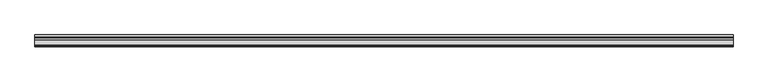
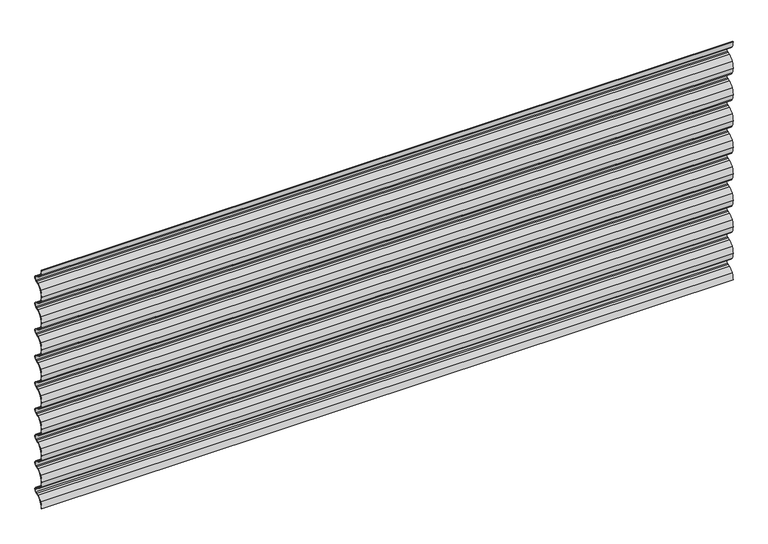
"""IFC4 building model written with IfcOpenShell, lengths in millimetres: plate geometry, Regolare Horizontal 801 : Regolare Horizontal 801."""

from ifc_helpers import new_model, si_unit, point, frame, frame_2d, origin, place, context, project, spatial, polyline, circle_curve, trimmed, segment, composite_curve, outline, extrude, source, transform, mapped, element, save


def plate_fe0d37fc(model_context):
    return source(origin(), model_context, "Body", "SweptSolid", [
        extrude(outline(composite_curve([segment(trimmed(circle_curve(frame_2d((38.4503244, 0.0)), 37.4503244), [point((6.5021495, 19.5407501))], [point((1.0, 0.0))], True, "CARTESIAN"), True, "CONTINUOUS"), segment(polyline([(1.0, 0.0), (0.0, 0.0)]), True, "CONTINUOUS"), segment(trimmed(circle_curve(frame_2d((38.4503244, 0.0)), 38.4503244), [point((0.0, 0.0))], [point((5.6490681, 20.062528))], False, "CARTESIAN"), True, "CONTINUOUS"), segment(trimmed(circle_curve(frame_2d((32.6206681, 3.5656452)), 31.6166783), [point((5.6490681, 20.062528))], [point((20.878867, 32.9211295))], False, "CARTESIAN"), True, "CONTINUOUS"), segment(polyline([(20.878867, 32.9211295), (28.0423924, 35.7903512), (31.4771017, 37.4367049)]), True, "CONTINUOUS"), segment(trimmed(circle_curve(frame_2d((28.0791236, 44.5257445)), 7.8613445), [point((31.4771017, 37.4367049))], [point((35.9404682, 44.5257445))], True, "CARTESIAN"), True, "CONTINUOUS"), segment(trimmed(circle_curve(frame_2d((28.0791236, 44.5257445)), 7.8613445), [point((35.9404682, 44.5257445))], [point((31.4771017, 51.6147842))], True, "CARTESIAN"), True, "CONTINUOUS"), segment(polyline([(31.4771017, 51.6147842), (28.0423924, 53.2611379), (20.878867, 56.1303596)]), True, "CONTINUOUS"), segment(trimmed(circle_curve(frame_2d((32.6206681, 85.4858438)), 31.6166783), [point((20.878867, 56.1303596))], [point((5.6490681, 68.9889611))], False, "CARTESIAN"), True, "CONTINUOUS"), segment(trimmed(circle_curve(frame_2d((38.4503244, 89.0514891)), 38.4503244), [point((5.6490681, 68.9889611))], [point((0.0, 89.0514891))], False, "CARTESIAN"), True, "CONTINUOUS"), segment(trimmed(circle_curve(frame_2d((38.4503244, 89.0514891)), 38.4503244), [point((0.0, 89.0514891))], [point((5.6490681, 109.1140171))], False, "CARTESIAN"), True, "CONTINUOUS"), segment(trimmed(circle_curve(frame_2d((32.6206681, 92.6171343)), 31.6166783), [point((5.6490681, 109.1140171))], [point((20.878867, 121.9726185))], False, "CARTESIAN"), True, "CONTINUOUS"), segment(polyline([(20.878867, 121.9726185), (28.0423924, 124.8418403), (31.4771017, 126.488194)]), True, "CONTINUOUS"), segment(trimmed(circle_curve(frame_2d((28.0791236, 133.5772336)), 7.8613445), [point((31.4771017, 126.488194))], [point((31.4771017, 140.6662733))], True, "CARTESIAN"), True, "CONTINUOUS"), segment(polyline([(31.4771017, 140.6662733), (28.0423924, 142.312627), (20.878867, 145.1818487)]), True, "CONTINUOUS"), segment(trimmed(circle_curve(frame_2d((32.6206681, 174.5373329)), 31.6166783), [point((20.878867, 145.1818487))], [point((5.6490681, 158.0404502))], False, "CARTESIAN"), True, "CONTINUOUS"), segment(trimmed(circle_curve(frame_2d((38.4503244, 178.1029782)), 38.4503244), [point((5.6490681, 158.0404502))], [point((0.0, 178.1029782))], False, "CARTESIAN"), True, "CONTINUOUS"), segment(trimmed(circle_curve(frame_2d((38.4503244, 178.1029782)), 38.4503244), [point((0.0, 178.1029782))], [point((5.6490681, 198.1655062))], False, "CARTESIAN"), True, "CONTINUOUS"), segment(trimmed(circle_curve(frame_2d((32.6206681, 181.6686234)), 31.6166783), [point((5.6490681, 198.1655062))], [point((20.878867, 211.0241076))], False, "CARTESIAN"), True, "CONTINUOUS"), segment(polyline([(20.878867, 211.0241076), (28.0423924, 213.8933293), (31.4771017, 215.5396831)]), True, "CONTINUOUS"), segment(trimmed(circle_curve(frame_2d((28.0791236, 222.6287227)), 7.8613445), [point((31.4771017, 215.5396831))], [point((31.4771017, 229.7177623))], True, "CARTESIAN"), True, "CONTINUOUS"), segment(polyline([(31.4771017, 229.7177623), (28.0423924, 231.3641161), (20.878867, 234.2333378)]), True, "CONTINUOUS"), segment(trimmed(circle_curve(frame_2d((32.6206681, 263.588822)), 31.6166783), [point((20.878867, 234.2333378))], [point((5.6490681, 247.0919392))], False, "CARTESIAN"), True, "CONTINUOUS"), segment(trimmed(circle_curve(frame_2d((38.4503244, 267.1544672)), 38.4503244), [point((5.6490681, 247.0919392))], [point((0.0, 267.1544672))], False, "CARTESIAN"), True, "CONTINUOUS"), segment(trimmed(circle_curve(frame_2d((38.4503244, 267.1544672)), 38.4503244), [point((0.0, 267.1544672))], [point((5.6490681, 287.2169952))], False, "CARTESIAN"), True, "CONTINUOUS"), segment(trimmed(circle_curve(frame_2d((32.6206681, 270.7201125)), 31.6166783), [point((5.6490681, 287.2169952))], [point((20.878867, 300.0755967))], False, "CARTESIAN"), True, "CONTINUOUS"), segment(polyline([(20.878867, 300.0755967), (28.0423924, 302.9448184), (31.4771017, 304.5911721)]), True, "CONTINUOUS"), segment(trimmed(circle_curve(frame_2d((28.0791236, 311.6802118)), 7.8613445), [point((31.4771017, 304.5911721))], [point((31.4771017, 318.7692514))], True, "CARTESIAN"), True, "CONTINUOUS"), segment(polyline([(31.4771017, 318.7692514), (28.0423924, 320.4156051), (20.878867, 323.2848269)]), True, "CONTINUOUS"), segment(trimmed(circle_curve(frame_2d((32.6206681, 352.6403111)), 31.6166783), [point((20.878867, 323.2848269))], [point((5.6490681, 336.1434283))], False, "CARTESIAN"), True, "CONTINUOUS"), segment(trimmed(circle_curve(frame_2d((38.4503244, 356.2059563)), 38.4503244), [point((5.6490681, 336.1434283))], [point((0.0, 356.2059563))], False, "CARTESIAN"), True, "CONTINUOUS"), segment(trimmed(circle_curve(frame_2d((38.4503244, 356.2059563)), 38.4503244), [point((0.0, 356.2059563))], [point((5.6490681, 376.2684843))], False, "CARTESIAN"), True, "CONTINUOUS"), segment(trimmed(circle_curve(frame_2d((32.6206681, 359.7716016)), 31.6166783), [point((5.6490681, 376.2684843))], [point((20.878867, 389.1270858))], False, "CARTESIAN"), True, "CONTINUOUS"), segment(polyline([(20.878867, 389.1270858), (28.0423924, 391.9963075), (31.4771017, 393.6426612)]), True, "CONTINUOUS"), segment(trimmed(circle_curve(frame_2d((28.0791236, 400.7317009)), 7.8613445), [point((31.4771017, 393.6426612))], [point((31.4771017, 407.8207405))], True, "CARTESIAN"), True, "CONTINUOUS"), segment(polyline([(31.4771017, 407.8207405), (28.0423924, 409.4670942), (20.878867, 412.3363159)]), True, "CONTINUOUS"), segment(trimmed(circle_curve(frame_2d((32.6206681, 441.6918002)), 31.6166783), [point((20.878867, 412.3363159))], [point((5.6490681, 425.1949174))], False, "CARTESIAN"), True, "CONTINUOUS"), segment(trimmed(circle_curve(frame_2d((38.4503244, 445.2574454)), 38.4503244), [point((5.6490681, 425.1949174))], [point((0.0, 445.2574454))], False, "CARTESIAN"), True, "CONTINUOUS"), segment(trimmed(circle_curve(frame_2d((38.4503244, 445.2574454)), 38.4503244), [point((0.0, 445.2574454))], [point((5.6490681, 465.3199734))], False, "CARTESIAN"), True, "CONTINUOUS"), segment(trimmed(circle_curve(frame_2d((32.6206681, 448.8230907)), 31.6166783), [point((5.6490681, 465.3199734))], [point((20.878867, 478.1785749))], False, "CARTESIAN"), True, "CONTINUOUS"), segment(polyline([(20.878867, 478.1785749), (28.0423924, 481.0477966), (31.4771017, 482.6941503)]), True, "CONTINUOUS"), segment(trimmed(circle_curve(frame_2d((28.0791236, 489.7831899)), 7.8613445), [point((31.4771017, 482.6941503))], [point((31.4771017, 496.8722296))], True, "CARTESIAN"), True, "CONTINUOUS"), segment(polyline([(31.4771017, 496.8722296), (28.0423924, 498.5185833), (20.878867, 501.387805)]), True, "CONTINUOUS"), segment(trimmed(circle_curve(frame_2d((32.6206681, 530.7432892)), 31.6166783), [point((20.878867, 501.387805))], [point((5.6490681, 514.2464065))], False, "CARTESIAN"), True, "CONTINUOUS"), segment(trimmed(circle_curve(frame_2d((38.4503244, 534.3089345)), 38.4503244), [point((5.6490681, 514.2464065))], [point((0.0, 534.3089345))], False, "CARTESIAN"), True, "CONTINUOUS"), segment(trimmed(circle_curve(frame_2d((38.4503244, 534.3089345)), 38.4503244), [point((0.0, 534.3089345))], [point((5.6490681, 554.3714625))], False, "CARTESIAN"), True, "CONTINUOUS"), segment(trimmed(circle_curve(frame_2d((32.6206681, 537.8745797)), 31.6166783), [point((5.6490681, 554.3714625))], [point((20.878867, 567.2300639))], False, "CARTESIAN"), True, "CONTINUOUS"), segment(polyline([(20.878867, 567.2300639), (28.0423924, 570.0992857), (31.4771017, 571.7456394)]), True, "CONTINUOUS"), segment(trimmed(circle_curve(frame_2d((28.0791236, 578.834679)), 7.8613445), [point((31.4771017, 571.7456394))], [point((31.4771017, 585.9237187))], True, "CARTESIAN"), True, "CONTINUOUS"), segment(polyline([(31.4771017, 585.9237187), (28.0423924, 587.5700724), (20.878867, 590.4392941)]), True, "CONTINUOUS"), segment(trimmed(circle_curve(frame_2d((32.6206681, 619.7947783)), 31.6166783), [point((20.878867, 590.4392941))], [point((5.6490681, 603.2978956))], False, "CARTESIAN"), True, "CONTINUOUS"), segment(trimmed(circle_curve(frame_2d((38.4503244, 623.3604236)), 38.4503244), [point((5.6490681, 603.2978956))], [point((0.0, 623.3604236))], False, "CARTESIAN"), True, "CONTINUOUS"), segment(trimmed(circle_curve(frame_2d((38.4503244, 623.3604236)), 38.4503244), [point((0.0, 623.3604236))], [point((5.6490681, 643.4229516))], False, "CARTESIAN"), True, "CONTINUOUS"), segment(trimmed(circle_curve(frame_2d((32.6206681, 626.9260688)), 31.6166783), [point((5.6490681, 643.4229516))], [point((20.878867, 656.281553))], False, "CARTESIAN"), True, "CONTINUOUS"), segment(polyline([(20.878867, 656.281553), (28.0423924, 659.1507748), (31.4771017, 660.7971285)]), True, "CONTINUOUS"), segment(trimmed(circle_curve(frame_2d((28.0791236, 667.8861681)), 7.8613445), [point((31.4771017, 660.7971285))], [point((31.4771017, 674.9752077))], True, "CARTESIAN"), True, "CONTINUOUS"), segment(polyline([(31.4771017, 674.9752077), (28.0423924, 676.6215615), (20.878867, 679.4907832)]), True, "CONTINUOUS"), segment(trimmed(circle_curve(frame_2d((32.6206681, 708.8462674)), 31.6166783), [point((20.878867, 679.4907832))], [point((5.6490681, 692.3493846))], False, "CARTESIAN"), True, "CONTINUOUS"), segment(trimmed(circle_curve(frame_2d((38.4503244, 712.4119126)), 38.4503244), [point((5.6490681, 692.3493846))], [point((0.0, 712.4119126))], False, "CARTESIAN"), True, "CONTINUOUS"), segment(trimmed(circle_curve(frame_2d((38.4503244, 712.4119126)), 38.4503244), [point((0.0, 712.4119126))], [point((5.6490681, 732.4744406))], False, "CARTESIAN"), True, "CONTINUOUS"), segment(trimmed(circle_curve(frame_2d((32.6206681, 715.9775579)), 31.6166783), [point((5.6490681, 732.4744406))], [point((20.878867, 745.3330421))], False, "CARTESIAN"), True, "CONTINUOUS"), segment(polyline([(20.878867, 745.3330421), (28.0423924, 748.2022638), (31.4771017, 749.8486175)]), True, "CONTINUOUS"), segment(trimmed(circle_curve(frame_2d((28.0791236, 756.9376572)), 7.8613445), [point((31.4771017, 749.8486175))], [point((31.4771017, 764.0266968))], True, "CARTESIAN"), True, "CONTINUOUS"), segment(polyline([(31.4771017, 764.0266968), (28.0423924, 765.6730505), (20.878867, 768.5422723)]), True, "CONTINUOUS"), segment(trimmed(circle_curve(frame_2d((32.6206681, 797.8977565)), 31.6166783), [point((20.878867, 768.5422723))], [point((5.6490681, 781.4008737))], False, "CARTESIAN"), True, "CONTINUOUS"), segment(trimmed(circle_curve(frame_2d((38.4503244, 801.4634017)), 38.4503244), [point((5.6490681, 781.4008737))], [point((0.0, 801.4634017))], False, "CARTESIAN"), True, "CONTINUOUS"), segment(polyline([(0.0, 801.4634017), (1.0, 801.4634017)]), True, "CONTINUOUS"), segment(trimmed(circle_curve(frame_2d((38.4503244, 801.4634017)), 37.4503244), [point((1.0, 801.4634017))], [point((6.5021495, 781.9226516))], True, "CARTESIAN"), True, "CONTINUOUS"), segment(trimmed(circle_curve(frame_2d((32.6206681, 797.8977565)), 30.6166783), [point((6.5021495, 781.9226516))], [point((21.2504634, 769.4706666))], True, "CARTESIAN"), True, "CONTINUOUS"), segment(polyline([(21.2504634, 769.4706666), (28.4448583, 766.5890807), (31.9093405, 764.928456)]), True, "CONTINUOUS"), segment(trimmed(circle_curve(frame_2d((28.0791236, 756.9376572)), 8.8613445), [point((31.9093405, 764.928456))], [point((31.9093405, 748.9468584))], False, "CARTESIAN"), True, "CONTINUOUS"), segment(polyline([(31.9093405, 748.9468584), (28.4448583, 747.2862336), (21.2504634, 744.4046477)]), True, "CONTINUOUS"), segment(trimmed(circle_curve(frame_2d((32.6206681, 715.9775579)), 30.6166783), [point((21.2504634, 744.4046477))], [point((6.5021495, 731.9526628))], True, "CARTESIAN"), True, "CONTINUOUS"), segment(trimmed(circle_curve(frame_2d((38.4503244, 712.4119126)), 37.4503244), [point((6.5021495, 731.9526628))], [point((1.0, 712.4119126))], True, "CARTESIAN"), True, "CONTINUOUS"), segment(trimmed(circle_curve(frame_2d((38.4503244, 712.4119126)), 37.4503244), [point((1.0, 712.4119126))], [point((6.5021495, 692.8711625))], True, "CARTESIAN"), True, "CONTINUOUS"), segment(trimmed(circle_curve(frame_2d((32.6206681, 708.8462674)), 30.6166783), [point((6.5021495, 692.8711625))], [point((21.2504634, 680.4191776))], True, "CARTESIAN"), True, "CONTINUOUS"), segment(polyline([(21.2504634, 680.4191776), (28.4448583, 677.5375917), (31.9093405, 675.8769669)]), True, "CONTINUOUS"), segment(trimmed(circle_curve(frame_2d((28.0791236, 667.8861681)), 8.8613445), [point((31.9093405, 675.8769669))], [point((31.9093405, 659.8953693))], False, "CARTESIAN"), True, "CONTINUOUS"), segment(polyline([(31.9093405, 659.8953693), (28.4448583, 658.2347446), (21.2504634, 655.3531587)]), True, "CONTINUOUS"), segment(trimmed(circle_curve(frame_2d((32.6206681, 626.9260688)), 30.6166783), [point((21.2504634, 655.3531587))], [point((6.5021495, 642.9011737))], True, "CARTESIAN"), True, "CONTINUOUS"), segment(trimmed(circle_curve(frame_2d((38.4503244, 623.3604236)), 37.4503244), [point((6.5021495, 642.9011737))], [point((1.0, 623.3604236))], True, "CARTESIAN"), True, "CONTINUOUS"), segment(trimmed(circle_curve(frame_2d((38.4503244, 623.3604236)), 37.4503244), [point((1.0, 623.3604236))], [point((6.5021495, 603.8196734))], True, "CARTESIAN"), True, "CONTINUOUS"), segment(trimmed(circle_curve(frame_2d((32.6206681, 619.7947783)), 30.6166783), [point((6.5021495, 603.8196734))], [point((21.2504634, 591.3676885))], True, "CARTESIAN"), True, "CONTINUOUS"), segment(polyline([(21.2504634, 591.3676885), (28.4448583, 588.4861026), (31.9093405, 586.8254778)]), True, "CONTINUOUS"), segment(trimmed(circle_curve(frame_2d((28.0791236, 578.834679)), 8.8613445), [point((31.9093405, 586.8254778))], [point((31.9093405, 570.8438802))], False, "CARTESIAN"), True, "CONTINUOUS"), segment(polyline([(31.9093405, 570.8438802), (28.4448583, 569.1832555), (21.2504634, 566.3016696)]), True, "CONTINUOUS"), segment(trimmed(circle_curve(frame_2d((32.6206681, 537.8745797)), 30.6166783), [point((21.2504634, 566.3016696))], [point((6.5021495, 553.8496846))], True, "CARTESIAN"), True, "CONTINUOUS"), segment(trimmed(circle_curve(frame_2d((38.4503244, 534.3089345)), 37.4503244), [point((6.5021495, 553.8496846))], [point((1.0, 534.3089345))], True, "CARTESIAN"), True, "CONTINUOUS"), segment(trimmed(circle_curve(frame_2d((38.4503244, 534.3089345)), 37.4503244), [point((1.0, 534.3089345))], [point((6.5021495, 514.7681843))], True, "CARTESIAN"), True, "CONTINUOUS"), segment(trimmed(circle_curve(frame_2d((32.6206681, 530.7432892)), 30.6166783), [point((6.5021495, 514.7681843))], [point((21.2504634, 502.3161994))], True, "CARTESIAN"), True, "CONTINUOUS"), segment(polyline([(21.2504634, 502.3161994), (28.4448583, 499.4346135), (31.9093405, 497.7739888)]), True, "CONTINUOUS"), segment(trimmed(circle_curve(frame_2d((28.0791236, 489.7831899)), 8.8613445), [point((31.9093405, 497.7739888))], [point((31.9093405, 481.7923911))], False, "CARTESIAN"), True, "CONTINUOUS"), segment(polyline([(31.9093405, 481.7923911), (28.4448583, 480.1317664), (21.2504634, 477.2501805)]), True, "CONTINUOUS"), segment(trimmed(circle_curve(frame_2d((32.6206681, 448.8230907)), 30.6166783), [point((21.2504634, 477.2501805))], [point((6.5021495, 464.7981955))], True, "CARTESIAN"), True, "CONTINUOUS"), segment(trimmed(circle_curve(frame_2d((38.4503244, 445.2574454)), 37.4503244), [point((6.5021495, 464.7981955))], [point((1.0, 445.2574454))], True, "CARTESIAN"), True, "CONTINUOUS"), segment(trimmed(circle_curve(frame_2d((38.4503244, 445.2574454)), 37.4503244), [point((1.0, 445.2574454))], [point((6.5021495, 425.7166953))], True, "CARTESIAN"), True, "CONTINUOUS"), segment(trimmed(circle_curve(frame_2d((32.6206681, 441.6918002)), 30.6166783), [point((6.5021495, 425.7166953))], [point((21.2504634, 413.2647103))], True, "CARTESIAN"), True, "CONTINUOUS"), segment(polyline([(21.2504634, 413.2647103), (28.4448583, 410.3831244), (31.9093405, 408.7224997)]), True, "CONTINUOUS"), segment(trimmed(circle_curve(frame_2d((28.0791236, 400.7317009)), 8.8613445), [point((31.9093405, 408.7224997))], [point((31.9093405, 392.740902))], False, "CARTESIAN"), True, "CONTINUOUS"), segment(polyline([(31.9093405, 392.740902), (28.4448583, 391.0802773), (21.2504634, 388.1986914)]), True, "CONTINUOUS"), segment(trimmed(circle_curve(frame_2d((32.6206681, 359.7716016)), 30.6166783), [point((21.2504634, 388.1986914))], [point((6.5021495, 375.7467065))], True, "CARTESIAN"), True, "CONTINUOUS"), segment(trimmed(circle_curve(frame_2d((38.4503244, 356.2059563)), 37.4503244), [point((6.5021495, 375.7467065))], [point((1.0, 356.2059563))], True, "CARTESIAN"), True, "CONTINUOUS"), segment(trimmed(circle_curve(frame_2d((38.4503244, 356.2059563)), 37.4503244), [point((1.0, 356.2059563))], [point((6.5021495, 336.6652062))], True, "CARTESIAN"), True, "CONTINUOUS"), segment(trimmed(circle_curve(frame_2d((32.6206681, 352.6403111)), 30.6166783), [point((6.5021495, 336.6652062))], [point((21.2504634, 324.2132212))], True, "CARTESIAN"), True, "CONTINUOUS"), segment(polyline([(21.2504634, 324.2132212), (28.4448583, 321.3316353), (31.9093405, 319.6710106)]), True, "CONTINUOUS"), segment(trimmed(circle_curve(frame_2d((28.0791236, 311.6802118)), 8.8613445), [point((31.9093405, 319.6710106))], [point((31.9093405, 303.689413))], False, "CARTESIAN"), True, "CONTINUOUS"), segment(polyline([(31.9093405, 303.689413), (28.4448583, 302.0287882), (21.2504634, 299.1472023)]), True, "CONTINUOUS"), segment(trimmed(circle_curve(frame_2d((32.6206681, 270.7201125)), 30.6166783), [point((21.2504634, 299.1472023))], [point((6.5021495, 286.6952174))], True, "CARTESIAN"), True, "CONTINUOUS"), segment(trimmed(circle_curve(frame_2d((38.4503244, 267.1544672)), 37.4503244), [point((6.5021495, 286.6952174))], [point((1.0, 267.1544672))], True, "CARTESIAN"), True, "CONTINUOUS"), segment(trimmed(circle_curve(frame_2d((38.4503244, 267.1544672)), 37.4503244), [point((1.0, 267.1544672))], [point((6.5021495, 247.6137171))], True, "CARTESIAN"), True, "CONTINUOUS"), segment(trimmed(circle_curve(frame_2d((32.6206681, 263.588822)), 30.6166783), [point((6.5021495, 247.6137171))], [point((21.2504634, 235.1617322))], True, "CARTESIAN"), True, "CONTINUOUS"), segment(polyline([(21.2504634, 235.1617322), (28.4448583, 232.2801463), (31.9093405, 230.6195215)]), True, "CONTINUOUS"), segment(trimmed(circle_curve(frame_2d((28.0791236, 222.6287227)), 8.8613445), [point((31.9093405, 230.6195215))], [point((31.9093405, 214.6379239))], False, "CARTESIAN"), True, "CONTINUOUS"), segment(polyline([(31.9093405, 214.6379239), (28.4448583, 212.9772992), (21.2504634, 210.0957133)]), True, "CONTINUOUS"), segment(trimmed(circle_curve(frame_2d((32.6206681, 181.6686234)), 30.6166783), [point((21.2504634, 210.0957133))], [point((6.5021495, 197.6437283))], True, "CARTESIAN"), True, "CONTINUOUS"), segment(trimmed(circle_curve(frame_2d((38.4503244, 178.1029782)), 37.4503244), [point((6.5021495, 197.6437283))], [point((1.0, 178.1029782))], True, "CARTESIAN"), True, "CONTINUOUS"), segment(trimmed(circle_curve(frame_2d((38.4503244, 178.1029782)), 37.4503244), [point((1.0, 178.1029782))], [point((6.5021495, 158.562228))], True, "CARTESIAN"), True, "CONTINUOUS"), segment(trimmed(circle_curve(frame_2d((32.6206681, 174.5373329)), 30.6166783), [point((6.5021495, 158.562228))], [point((21.2504634, 146.1102431))], True, "CARTESIAN"), True, "CONTINUOUS"), segment(polyline([(21.2504634, 146.1102431), (28.4448583, 143.2286572), (31.9093405, 141.5680324)]), True, "CONTINUOUS"), segment(trimmed(circle_curve(frame_2d((28.0791236, 133.5772336)), 8.8613445), [point((31.9093405, 141.5680324))], [point((31.9093405, 125.5864348))], False, "CARTESIAN"), True, "CONTINUOUS"), segment(polyline([(31.9093405, 125.5864348), (28.4448583, 123.9258101), (21.2504634, 121.0442242)]), True, "CONTINUOUS"), segment(trimmed(circle_curve(frame_2d((32.6206681, 92.6171343)), 30.6166783), [point((21.2504634, 121.0442242))], [point((6.5021495, 108.5922392))], True, "CARTESIAN"), True, "CONTINUOUS"), segment(trimmed(circle_curve(frame_2d((38.4503244, 89.0514891)), 37.4503244), [point((6.5021495, 108.5922392))], [point((1.0, 89.0514891))], True, "CARTESIAN"), True, "CONTINUOUS"), segment(trimmed(circle_curve(frame_2d((38.4503244, 89.0514891)), 37.4503244), [point((1.0, 89.0514891))], [point((6.5021495, 69.5107389))], True, "CARTESIAN"), True, "CONTINUOUS"), segment(trimmed(circle_curve(frame_2d((32.6206681, 85.4858438)), 30.6166783), [point((6.5021495, 69.5107389))], [point((21.2504634, 57.058754))], True, "CARTESIAN"), True, "CONTINUOUS"), segment(polyline([(21.2504634, 57.058754), (28.4448583, 54.1771681), (31.9093405, 52.5165434)]), True, "CONTINUOUS"), segment(trimmed(circle_curve(frame_2d((28.0791236, 44.5257445)), 8.8613445), [point((31.9093405, 52.5165434))], [point((36.9404682, 44.5257445))], False, "CARTESIAN"), True, "CONTINUOUS"), segment(trimmed(circle_curve(frame_2d((28.0791236, 44.5257445)), 8.8613445), [point((36.9404682, 44.5257445))], [point((31.9093405, 36.5349457))], False, "CARTESIAN"), True, "CONTINUOUS"), segment(polyline([(31.9093405, 36.5349457), (28.4448583, 34.874321), (21.2504634, 31.9927351)]), True, "CONTINUOUS"), segment(trimmed(circle_curve(frame_2d((32.6206681, 3.5656452)), 30.6166783), [point((21.2504634, 31.9927351))], [point((6.5021495, 19.5407501))], True, "CARTESIAN"), True, "CONTINUOUS")], self_intersect=False)), frame((-1100.1688045, 0.0, 0.0), z_axis=(1.0, 0.0, 0.0), x_axis=(0.0, 1.0, 0.0)), (0.0, 0.0, 1.0), 2200.3376091),
    ])


if __name__ == "__main__":
    model = new_model("IFC4")
    model_context = context("Model", 3, world=origin())
    ifc_project = project(units=[si_unit("LENGTHUNIT", "METRE", prefix="MILLI")], contexts=[model_context])
    site = spatial("IfcSite", under=ifc_project)
    building = spatial("IfcBuilding", under=site)
    placement = place(None, origin())
    plate_shape = plate_fe0d37fc(model_context)
    element("IfcPlate", 1, ObjectType="Regolare Horizontal 801 : Regolare Horizontal 801", at=placement, inside=building, context=model_context, shape_type="MappedRepresentation", body=[
        mapped(plate_shape, transform((0.0, 0.0, 0.0), x_axis=(1.0, 0.0, 0.0), y_axis=(0.0, 1.0, 0.0), z_axis=(0.0, 0.0, 1.0))),
    ])
    save(model, "model.ifc")
